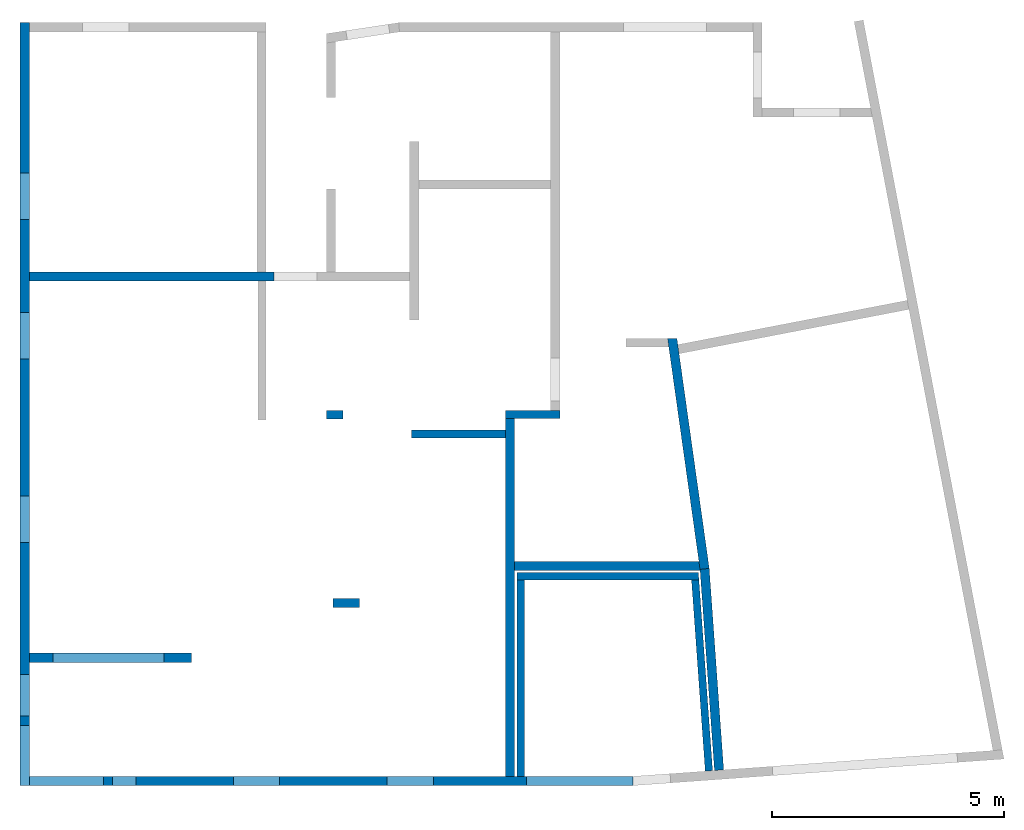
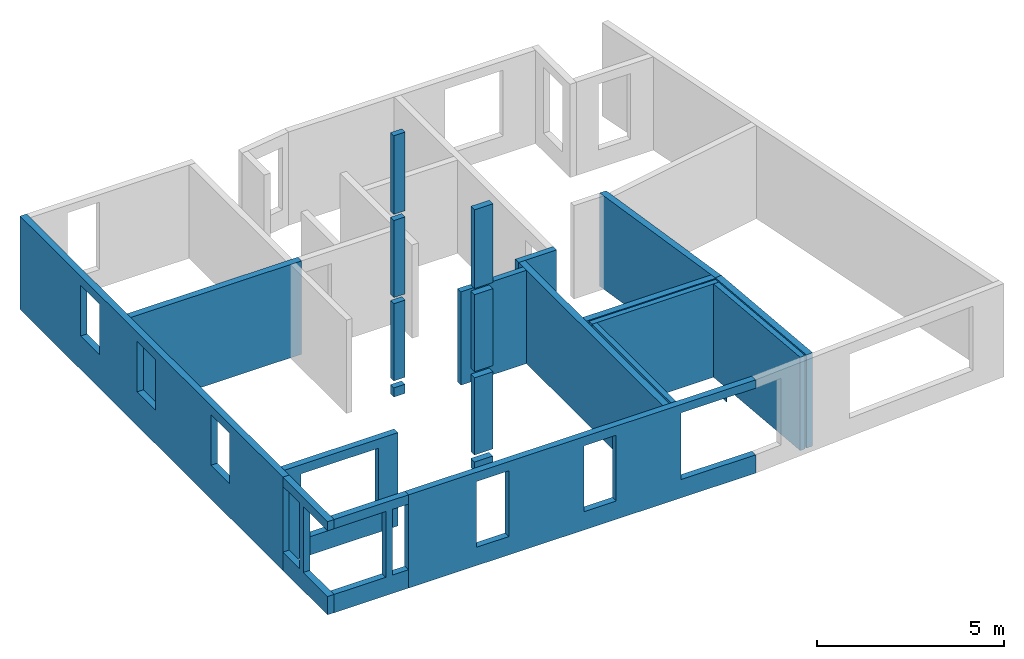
# One storey, part 1 of 2: 15 walls, 2 columns, 18 openings.
"""IFC2X3 building model written with IfcOpenShell, lengths in centimetres."""

from ifc_helpers import new_model, entity, si_unit, converted_unit, derived_unit, direction, frame, frame_2d, origin, origin_2d_with_axis, place, context, subcontext, project, spatial, polyline, rectangle, outline, extrude, clip, bounded_halfspace, source, transform, mapped, material, layer, layer_set, layer_usage, type_object, type_shapes, element, save


model = new_model("IFC2X3")

# Units and contexts
model_context = context("Model", 3, precision=0.001, world=origin(), true_north=direction((6.12303176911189e-17, 1.0)))
body_context = subcontext(model_context, "Body", "Model", "MODEL_VIEW")
ifc_project = project(units=[si_unit("LENGTHUNIT", "METRE", prefix="CENTI"), si_unit("AREAUNIT", "SQUARE_METRE"), si_unit("VOLUMEUNIT", "CUBIC_METRE"), converted_unit("PLANEANGLEUNIT", "DEGREE", entity("IfcRatioMeasure", 0.0174532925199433), si_unit("PLANEANGLEUNIT", "RADIAN"), dimensions=[0, 0, 0, 0, 0, 0, 0]), si_unit("MASSUNIT", "GRAM", prefix="KILO"), si_unit("TIMEUNIT", "SECOND"), si_unit("FREQUENCYUNIT", "HERTZ"), si_unit("THERMODYNAMICTEMPERATUREUNIT", "DEGREE_CELSIUS"), derived_unit("THERMALTRANSMITTANCEUNIT", [(si_unit("MASSUNIT", "GRAM", prefix="KILO"), 1), (si_unit("THERMODYNAMICTEMPERATUREUNIT", "KELVIN"), -1), (si_unit("TIMEUNIT", "SECOND"), -3)]), derived_unit("VOLUMETRICFLOWRATEUNIT", [(si_unit("LENGTHUNIT", "METRE"), 3), (si_unit("TIMEUNIT", "SECOND"), -1)]), si_unit("ELECTRICCURRENTUNIT", "AMPERE"), si_unit("ELECTRICVOLTAGEUNIT", "VOLT"), si_unit("POWERUNIT", "WATT"), si_unit("FORCEUNIT", "NEWTON"), si_unit("ILLUMINANCEUNIT", "LUX"), si_unit("LUMINOUSFLUXUNIT", "LUMEN"), si_unit("LUMINOUSINTENSITYUNIT", "CANDELA"), derived_unit("USERDEFINED", [(si_unit("MASSUNIT", "GRAM", prefix="KILO"), -1), (si_unit("LENGTHUNIT", "METRE"), -2), (si_unit("TIMEUNIT", "SECOND"), 3), (si_unit("LUMINOUSFLUXUNIT", "LUMEN"), 1)]), derived_unit("LINEARVELOCITYUNIT", [(si_unit("LENGTHUNIT", "METRE"), 1), (si_unit("TIMEUNIT", "SECOND"), -1)]), si_unit("PRESSUREUNIT", "PASCAL"), derived_unit("USERDEFINED", [(si_unit("LENGTHUNIT", "METRE"), -2), (si_unit("MASSUNIT", "GRAM", prefix="KILO"), 1), (si_unit("TIMEUNIT", "SECOND"), -2)])], contexts=[model_context])

# Site, building, storey
site_placement = place(None, origin())
site = spatial("IfcSite", under=ifc_project, at=site_placement, Name="Default", CompositionType="ELEMENT")
building_placement = place(site_placement, origin())
building = spatial("IfcBuilding", under=site, at=building_placement, CompositionType="ELEMENT")
storey_placement = place(building_placement, frame((0.0, 0.0, -60.0)))
storey = spatial("IfcBuildingStorey", under=building, at=storey_placement, Name="Fondations", CompositionType="ELEMENT", Elevation=-60.0)

# Columns
ifc_material_1 = material(Name="Béton_C25/30")
column_type_1 = type_object("IfcColumnType", Name="POTEAU_20x57_C25/30", PredefinedType="COLUMN", material=ifc_material_1)
shared_shape_1 = source(origin(), body_context, "Body", "SweptSolid", [
    extrude(rectangle(XDim=19.9999999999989, YDim=57.0, at=frame_2d((-3.46567219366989e-12, 0.0), x_axis=(1.0, 0.0))), frame((1580.95930180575, 23601.6882457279, -60.0), z_axis=(0.0, 0.0, 1.0), x_axis=(0.0, -1.0, 0.0)), (0.0, 0.0, 1.0), 30.0),
    extrude(rectangle(XDim=19.9999999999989, YDim=57.0, at=frame_2d((-3.46567219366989e-12, 0.0), x_axis=(1.0, 0.0))), frame((1580.95930180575, 23601.6882457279, 537.0), z_axis=(0.0, 0.0, 1.0), x_axis=(0.0, -1.0, 0.0)), (0.0, 0.0, 1.0), 257.0),
    extrude(rectangle(XDim=19.9999999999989, YDim=57.0, at=frame_2d((-3.46567219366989e-12, 0.0), x_axis=(1.0, 0.0))), frame((1580.95930180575, 23601.6882457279, -7.0), z_axis=(0.0, 0.0, 1.0), x_axis=(0.0, -1.0, 0.0)), (0.0, 0.0, 1.0), 251.999999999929),
    extrude(rectangle(XDim=19.9999999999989, YDim=57.0, at=frame_2d((-3.46567219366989e-12, 0.0), x_axis=(1.0, 0.0))), frame((1580.95930180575, 23601.6882457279, 265.0), z_axis=(0.0, 0.0, 1.0), x_axis=(0.0, -1.0, 0.0)), (0.0, 0.0, 1.0), 252.000000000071),
])
type_shapes(column_type_1, [shared_shape_1])
column_1_placement = place(storey_placement, frame((0.0, 0.0, 60.0)))
element("IfcColumn", 1, at=column_1_placement, inside=storey, type_object=column_type_1, material=ifc_material_1, Name="MR_POTEAU RECTANGULAIRE:POTEAU_20x57_C25/30", ObjectType="POTEAU_20x57_C25/30", context=body_context, shape_type="MappedRepresentation", body=[
    mapped(shared_shape_1, transform((0.0, 0.0, 0.0), scale=1.0)),
])
column_type_2 = type_object("IfcColumnType", Name="POTEAU_18x35_C25/30", PredefinedType="COLUMN", material=ifc_material_1)
shared_shape_2 = source(origin(), body_context, "Body", "SweptSolid", [
    extrude(rectangle(XDim=17.9999999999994, YDim=35.0000000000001, at=origin_2d_with_axis()), frame((1555.8961455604, 24008.1933501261, -60.0), z_axis=(0.0, 0.0, 1.0), x_axis=(0.0, -1.0, 0.0)), (0.0, 0.0, 1.0), 30.0),
    extrude(rectangle(XDim=17.9999999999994, YDim=35.0000000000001, at=origin_2d_with_axis()), frame((1555.8961455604, 24008.1933501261, 537.0), z_axis=(0.0, 0.0, 1.0), x_axis=(0.0, -1.0, 0.0)), (0.0, 0.0, 1.0), 257.0),
    extrude(rectangle(XDim=17.9999999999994, YDim=35.0000000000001, at=origin_2d_with_axis()), frame((1555.8961455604, 24008.1933501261, -7.0), z_axis=(0.0, 0.0, 1.0), x_axis=(0.0, -1.0, 0.0)), (0.0, 0.0, 1.0), 251.999999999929),
    extrude(rectangle(XDim=17.9999999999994, YDim=35.0000000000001, at=origin_2d_with_axis()), frame((1555.8961455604, 24008.1933501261, 265.0), z_axis=(0.0, 0.0, 1.0), x_axis=(0.0, -1.0, 0.0)), (0.0, 0.0, 1.0), 252.000000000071),
])
type_shapes(column_type_2, [shared_shape_2])
column_2_placement = place(storey_placement, frame((0.0, 0.0, 60.0)))
element("IfcColumn", 2, at=column_2_placement, inside=storey, type_object=column_type_2, material=ifc_material_1, Name="MR_POTEAU RECTANGULAIRE:POTEAU_18x35_C25/30", ObjectType="POTEAU_18x35_C25/30", context=body_context, shape_type="MappedRepresentation", body=[
    mapped(shared_shape_2, transform((0.0, 0.0, 0.0), scale=1.0)),
])

# Wall, openings
ifc_material_2 = material(Name="Maçonnerie - Béton")
ifc_layer_1 = layer(ifc_material_2, 20.0)
ifc_layer_set_1 = layer_set([ifc_layer_1], Name="Mur de base:BBM_20")
ifc_layer_usage_1 = layer_usage(ifc_layer_set_1, "AXIS2", "NEGATIVE", 10.0)
wall_type_1 = type_object("IfcWallType", Name="Mur de base:BBM_20", PredefinedType="STANDARD", material=ifc_layer_set_1)
wall_1_placement = place(storey_placement, frame((886.385889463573, 23447.301413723, 0.0), z_axis=(0.0, 0.0, 1.0), x_axis=(0.0, 1.0, 0.0)))
wall_1 = element("IfcWallStandardCase", 3, at=wall_1_placement, inside=storey, type_object=wall_type_1, material=ifc_layer_usage_1, Name="Mur de base:BBM_20", ObjectType="Mur de base:BBM_20", context=body_context, shape_type="Clipping", body=[
    clip(clip(clip(extrude(rectangle(XDim=1407.1129661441, YDim=20.0, at=frame_2d((703.556483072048, 0.0), x_axis=(-1.0, 0.0))), origin(), (0.0, 0.0, 1.0), 304.999999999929), bounded_halfspace(frame((25.7583863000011, -10.0, 305.0), z_axis=(0.0, 0.0, -1.0), x_axis=(1.0, 0.0, 0.0)), True, frame((25.7583863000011, -10.0, 305.0)), polyline([(0.0, 0.0), (20.0, 0.0), (823.246288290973, 0.0), (843.246288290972, 0.0), (1056.2416137, 0.0), (1056.2416137, 20.0), (0.0, 20.0), (0.0, 0.0)]))), bounded_halfspace(frame((1082.0, -10.0, 305.0), z_axis=(0.0, 0.0, -1.0), x_axis=(0.0, 1.0, 0.0)), True, frame((1082.0, -10.0, 305.0)), polyline([(0.0, 0.0), (305.112966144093, 0.0), (325.112966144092, 0.0), (325.112966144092, 20.0), (0.0, 20.0), (0.0, 0.0)]))), bounded_halfspace(frame((0.0, -10.0, 305.0), z_axis=(0.0, 0.0, -1.0), x_axis=(1.0, 0.0, 0.0)), True, frame((0.0, -10.0, 305.0)), polyline([(0.0, 0.0), (25.7583863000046, 0.0), (25.7583863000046, 20.0), (0.0, 20.0), (0.0, 0.0)]))),
])
opening_1_placement = place(wall_1_placement, frame((-23447.301413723, 886.385889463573, 60.0), z_axis=(0.0, 0.0, 1.0), x_axis=(0.0, -1.0, 0.0)))
element("IfcOpeningElement", 4, at=opening_1_placement, cuts=wall_1, Name="Mur de base:BBM_20", ObjectType="Opening", context=body_context, shape_type="SweptSolid", body=[
    extrude(rectangle(XDim=165.0, YDim=100.000000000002, at=frame_2d((0.0, -1.73372427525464e-12), x_axis=(1.0, 0.0))), frame((1028.78588946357, 24479.4143798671, 132.5), z_axis=(-1.0, 0.0, 0.0), x_axis=(0.0, 0.0, -1.0)), (0.0, 0.0, 1.0), 304.8),
])
opening_2_placement = place(wall_1_placement, frame((-23447.301413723, 886.385889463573, 60.0), z_axis=(0.0, 0.0, 1.0), x_axis=(0.0, -1.0, 0.0)))
element("IfcOpeningElement", 5, at=opening_2_placement, cuts=wall_1, Name="Mur de base:BBM_20", ObjectType="Opening", context=body_context, shape_type="SweptSolid", body=[
    extrude(rectangle(XDim=165.0, YDim=100.000000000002, at=frame_2d((0.0, -1.73372427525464e-12), x_axis=(1.0, 0.0))), frame((1028.78588946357, 24178.4143798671, 132.5), z_axis=(-1.0, 0.0, 0.0), x_axis=(0.0, 0.0, -1.0)), (0.0, 0.0, 1.0), 304.8),
])
opening_3_placement = place(wall_1_placement, frame((-23447.301413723, 886.385889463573, 60.0), z_axis=(0.0, 0.0, 1.0), x_axis=(0.0, -1.0, 0.0)))
element("IfcOpeningElement", 6, at=opening_3_placement, cuts=wall_1, Name="Mur de base:BBM_20", ObjectType="Opening", context=body_context, shape_type="SweptSolid", body=[
    extrude(rectangle(XDim=165.0, YDim=100.000000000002, at=frame_2d((0.0, 1.73372427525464e-12), x_axis=(1.0, 0.0))), frame((1028.78588946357, 23782.4143798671, 132.5), z_axis=(-1.0, 0.0, 0.0), x_axis=(0.0, 0.0, -1.0)), (0.0, 0.0, 1.0), 304.8),
])

# Wall, opening
ifc_layer_usage_2 = layer_usage(ifc_layer_set_1, "AXIS2", "NEGATIVE", 10.0)
wall_2_placement = place(storey_placement, frame((896.385889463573, 23483.059800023, 0.0)))
wall_2 = element("IfcWallStandardCase", 7, at=wall_2_placement, inside=storey, type_object=wall_type_1, material=ifc_layer_usage_2, Name="Mur de base:BBM_20", ObjectType="Mur de base:BBM_20", context=body_context, shape_type="Clipping", body=[
    clip(extrude(rectangle(XDim=350.405535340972, YDim=20.0000000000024, at=frame_2d((175.202767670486, 0.0), x_axis=(-1.0, 0.0))), origin(), (0.0, 0.0, 1.0), 304.999999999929), bounded_halfspace(frame((350.405535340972, 10.0, 305.0), z_axis=(0.0, 0.0, -1.0), x_axis=(0.0, 1.0, 0.0)), True, frame((350.405535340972, 10.0, 305.0)), polyline([(0.0, 0.0), (-350.405535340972, 0.0), (-350.405535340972, -20.0), (-20.0, -20.0), (0.0, -20.0), (0.0, 0.0)]))),
])
opening_4_placement = place(wall_2_placement, frame((-896.385889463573, -23483.059800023, 60.0)))
element("IfcOpeningElement", 8, at=opening_4_placement, cuts=wall_2, Name="Mur de base:BBM_20", ObjectType="Opening", context=body_context, shape_type="SweptSolid", body=[
    extrude(rectangle(XDim=215.0, YDim=240.0, at=frame_2d((0.0, 0.0), x_axis=(0.0, 1.0))), frame((1067.38588946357, 23320.659800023, 107.5), z_axis=(0.0, 1.0, 0.0), x_axis=(1.0, 0.0, 0.0)), (0.0, 0.0, 1.0), 304.8),
])

# Wall, openings
ifc_layer_usage_3 = layer_usage(ifc_layer_set_1, "AXIS2", "NEGATIVE", 10.0)
wall_3_placement = place(storey_placement, frame((2200.13155874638, 23217.301413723, 0.0), z_axis=(0.0, 0.0, 1.0), x_axis=(-1.0, 0.0, 0.0)))
wall_3 = element("IfcWallStandardCase", 9, at=wall_3_placement, inside=storey, type_object=wall_type_1, material=ifc_layer_usage_3, Name="Mur de base:BBM_20", ObjectType="Mur de base:BBM_20", context=body_context, shape_type="Clipping", body=[
    clip(clip(extrude(outline(polyline([(1073.74566928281, -10.0), (1073.74566928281, 10.0), (0.0, 10.0), (0.715800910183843, -10.0), (234.474035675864, -10.0), (250.474035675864, -10.0), (255.98403645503, -10.0), (275.98403645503, -10.0), (1073.74566928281, -10.0)])), origin(), (0.0, 0.0, 1.0), 304.999999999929), bounded_halfspace(frame((0.715800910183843, -10.0, 305.0), z_axis=(0.0, 0.0, -1.0), x_axis=(0.0, -1.0, 0.0)), True, frame((0.715800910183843, -10.0, 305.0)), polyline([(0.0, 0.0), (233.75823476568, 0.0), (249.75823476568, 0.0), (255.268235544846, 0.0), (275.268235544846, 0.0), (952.624333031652, 0.0), (972.624333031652, 0.0), (972.624333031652, 20.0), (-0.715800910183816, 20.0), (0.0, 0.0)]))), bounded_halfspace(frame((1073.74566928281, -10.0, 305.0), z_axis=(0.0, 0.0, -1.0), x_axis=(0.0, -1.0, 0.0)), True, frame((1073.74566928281, -10.0, 305.0)), polyline([(0.0, 0.0), (0.0, 20.0), (-100.405535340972, 20.0), (-100.405535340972, 0.0), (0.0, 0.0)]))),
])
opening_5_placement = place(wall_3_placement, origin())
element("IfcOpeningElement", 10, at=opening_5_placement, cuts=wall_3, Name="Mur de base:BBM_20", ObjectType="Opening", context=body_context, shape_type="SweptSolid", body=[
    extrude(rectangle(XDim=215.0, YDim=49.9999999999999, at=frame_2d((0.0, 0.0), x_axis=(0.0, 1.0))), frame((1098.74566928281, -162.400000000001, 167.5), z_axis=(0.0, 1.0, 0.0), x_axis=(1.0, 0.0, 0.0)), (0.0, 0.0, 1.0), 304.8),
])
opening_6_placement = place(wall_3_placement, origin())
element("IfcOpeningElement", 11, at=opening_6_placement, cuts=wall_3, Name="Mur de base:BBM_20", ObjectType="Opening", context=body_context, shape_type="SweptSolid", body=[
    extrude(rectangle(XDim=218.0, YDim=80.0, at=frame_2d((-4.29878355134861e-13, 0.0), x_axis=(0.0, 1.0))), frame((-39.8544290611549, -12.907745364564, 169.0), z_axis=(-0.0714885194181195, 0.99744142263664, 0.0), x_axis=(0.99744142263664, 0.0714885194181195, 0.0)), (0.0, 0.0, 1.0), 19.9999999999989),
])
opening_7_placement = place(wall_3_placement, frame((2200.13155874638, 23217.301413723, 60.0), z_axis=(0.0, 0.0, 1.0), x_axis=(-1.0, 0.0, 0.0)))
element("IfcOpeningElement", 12, at=opening_7_placement, cuts=wall_3, Name="Mur de base:BBM_20", ObjectType="Opening", context=body_context, shape_type="SweptSolid", body=[
    extrude(rectangle(XDim=218.0, YDim=140.0, at=frame_2d((2.20268248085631e-13, 0.0), x_axis=(0.0, 1.0))), frame((2039.65752307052, 23379.701413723, 109.0), z_axis=(0.0, -1.0, 0.0), x_axis=(-1.0, 0.0, 0.0)), (0.0, 0.0, 1.0), 304.8),
])
opening_8_placement = place(wall_3_placement, frame((2200.13155874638, 23217.301413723, 60.0), z_axis=(0.0, 0.0, 1.0), x_axis=(-1.0, 0.0, 0.0)))
element("IfcOpeningElement", 13, at=opening_8_placement, cuts=wall_3, Name="Mur de base:BBM_20", ObjectType="Opening", context=body_context, shape_type="SweptSolid", body=[
    extrude(rectangle(XDim=218.0, YDim=93.0000000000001, at=frame_2d((2.16715534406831e-13, 0.0), x_axis=(0.0, 1.0))), frame((2158.15752307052, 23379.701413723, 109.0), z_axis=(0.0, -1.0, 0.0), x_axis=(-1.0, 0.0, 0.0)), (0.0, 0.0, 1.0), 304.8),
])
opening_9_placement = place(wall_3_placement, frame((2200.13155874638, 23217.301413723, 60.0), z_axis=(0.0, 0.0, 1.0), x_axis=(-1.0, 0.0, 0.0)))
element("IfcOpeningElement", 14, at=opening_9_placement, cuts=wall_3, Name="Mur de base:BBM_20", ObjectType="Opening", context=body_context, shape_type="SweptSolid", body=[
    extrude(rectangle(XDim=204.0, YDim=93.0000000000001, at=frame_2d((2.16715534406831e-13, 0.0), x_axis=(0.0, 1.0))), frame((2154.15752307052, 23379.701413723, 102.0), z_axis=(0.0, -1.0, 0.0), x_axis=(-1.0, 0.0, 0.0)), (0.0, 0.0, 1.0), 304.8),
])
opening_10_placement = place(wall_3_placement, frame((2200.13155874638, 23217.301413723, 60.0), z_axis=(0.0, 0.0, 1.0), x_axis=(-1.0, 0.0, 0.0)))
element("IfcOpeningElement", 15, at=opening_10_placement, cuts=wall_3, Name="Mur de base:BBM_20", ObjectType="Opening", context=body_context, shape_type="SweptSolid", body=[
    extrude(rectangle(XDim=215.0, YDim=100.0, at=frame_2d((-1.10134124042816e-13, 0.0), x_axis=(0.0, 1.0))), frame((1386.79142480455, 23379.701413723, 107.5), z_axis=(0.0, -1.0, 0.0), x_axis=(-1.0, 0.0, 0.0)), (0.0, 0.0, 1.0), 304.8),
])
opening_11_placement = place(wall_3_placement, frame((2200.13155874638, 23217.301413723, 60.0), z_axis=(0.0, 0.0, 1.0), x_axis=(-1.0, 0.0, 0.0)))
element("IfcOpeningElement", 16, at=opening_11_placement, cuts=wall_3, Name="Mur de base:BBM_20", ObjectType="Opening", context=body_context, shape_type="SweptSolid", body=[
    extrude(rectangle(XDim=215.0, YDim=100.0, at=frame_2d((-1.10134124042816e-13, 0.0), x_axis=(0.0, 1.0))), frame((1718.79142480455, 23379.701413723, 107.5), z_axis=(0.0, -1.0, 0.0), x_axis=(-1.0, 0.0, 0.0)), (0.0, 0.0, 1.0), 304.8),
])

# Wall, opening
ifc_layer_2 = layer(ifc_material_1, 20.0)
ifc_layer_set_2 = layer_set([ifc_layer_2], Name="Mur de base:VOILE_20_C25/30")
ifc_layer_usage_4 = layer_usage(ifc_layer_set_2, "AXIS2", "POSITIVE", -10.0)
wall_type_2 = type_object("IfcWallType", Name="Mur de base:VOILE_20_C25/30", PredefinedType="STANDARD", material=ifc_layer_set_2)
wall_4_placement = place(storey_placement, frame((896.385889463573, 24306.306088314, 0.0)))
wall_4 = element("IfcWallStandardCase", 17, at=wall_4_placement, inside=storey, type_object=wall_type_2, material=ifc_layer_usage_4, Name="Mur de base:VOILE_20_C25/30", ObjectType="Mur de base:VOILE_20_C25/30", context=body_context, shape_type="Clipping", body=[
    clip(extrude(rectangle(XDim=528.145806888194, YDim=20.0000000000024, at=frame_2d((264.072903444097, 0.0), x_axis=(-1.0, 0.0))), origin(), (0.0, 0.0, 1.0), 304.999999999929), bounded_halfspace(frame((0.0, -10.0, 305.0), z_axis=(0.0, 0.0, -1.0), x_axis=(0.0, 1.0, 0.0)), True, frame((0.0, -10.0, 305.0)), polyline([(0.0, 0.0), (493.405781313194, 0.0), (511.405781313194, 0.0), (528.145806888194, 0.0), (528.145806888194, 20.0), (511.405750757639, 20.0), (491.405750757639, 20.0), (0.0, 20.0), (0.0, 0.0)]))),
])
opening_12_placement = place(wall_4_placement, origin())
element("IfcOpeningElement", 18, at=opening_12_placement, cuts=wall_4, Name="Mur de base:VOILE_20_C25/30", ObjectType="Opening", context=body_context, shape_type="SweptSolid", body=[
    extrude(rectangle(XDim=204.0, YDim=93.0000000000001, at=frame_2d((0.0, 0.0), x_axis=(0.0, 1.0))), frame((574.645806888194, -162.400000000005, 162.0), z_axis=(0.0, 1.0, 0.0), x_axis=(1.0, 0.0, 0.0)), (0.0, 0.0, 1.0), 304.8),
])

# Walls
ifc_layer_usage_5 = layer_usage(ifc_layer_set_2, "AXIS2", "NEGATIVE", 10.0)
wall_5_placement = place(storey_placement, frame((2284.39887464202, 24173.6975718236, 0.0), z_axis=(0.0, 0.0, 1.0), x_axis=(0.139173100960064, -0.99026806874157, 0.0)))
element("IfcWallStandardCase", 19, at=wall_5_placement, inside=storey, type_object=wall_type_2, material=ifc_layer_usage_5, Name="Mur de base:VOILE_20_C25/30", ObjectType="Mur de base:VOILE_20_C25/30", context=body_context, shape_type="Clipping", body=[
    clip(extrude(outline(polyline([(503.146166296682, -10.0), (503.827197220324, 10.0), (35.9035260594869, 10.0), (15.8774372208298, 10.0), (2.81081669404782, 10.0), (0.0, -10.0), (18.1768963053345, -10.0), (485.591480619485, -10.0), (503.146166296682, -10.0)])), origin(), (0.0, 0.0, 1.0), 304.999999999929), bounded_halfspace(frame((0.0, -10.0, 305.0), z_axis=(0.0, 0.0, -1.0), x_axis=(-0.99026806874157, 0.139173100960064, 0.0)), True, frame((0.0, -10.0, 305.0)), polyline([(0.0, 0.0), (18.1768963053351, 0.0), (485.591480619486, 0.0), (503.146166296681, 0.0), (503.827197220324, 20.0), (35.9035260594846, 20.0), (15.8774372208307, 20.0), (2.81081669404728, 20.0), (0.0, 0.0)]))),
])
ifc_layer_usage_6 = layer_usage(ifc_layer_set_2, "AXIS2", "NEGATIVE", 10.0)
wall_6_placement = place(storey_placement, frame((1934.14752229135, 23999.3056315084, 0.0), z_axis=(0.0, 0.0, 1.0), x_axis=(0.0, -1.0, 0.0)))
element("IfcWallStandardCase", 20, at=wall_6_placement, inside=storey, type_object=wall_type_2, material=ifc_layer_usage_6, Name="Mur de base:VOILE_20_C25/30", ObjectType="Mur de base:VOILE_20_C25/30", context=body_context, shape_type="Clipping", body=[
    clip(extrude(rectangle(XDim=772.004217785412, YDim=20.0000000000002, at=frame_2d((386.002108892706, 0.0), x_axis=(-1.0, 0.0))), origin(), (0.0, 0.0, 1.0), 304.999999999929), bounded_halfspace(frame((0.0, -10.0, 305.0), z_axis=(0.0, 0.0, -1.0), x_axis=(-1.0, 0.0, 0.0)), True, frame((0.0, -10.0, 305.0)), polyline([(0.0, 0.0), (24.0000641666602, 0.0), (42.0000641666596, 0.0), (772.004217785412, 0.0), (772.004217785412, 20.0), (327.865528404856, 20.0), (307.865528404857, 20.0), (0.0, 20.0), (0.0, 0.0)]))),
])
ifc_layer_usage_7 = layer_usage(ifc_layer_set_2, "AXIS2", "NEGATIVE", 10.0)
wall_7_placement = place(storey_placement, frame((1944.14752229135, 23681.4401031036, 0.0)))
element("IfcWallStandardCase", 21, at=wall_7_placement, inside=storey, type_object=wall_type_2, material=ifc_layer_usage_7, Name="Mur de base:VOILE_20_C25/30", ObjectType="Mur de base:VOILE_20_C25/30", context=body_context, shape_type="Clipping", body=[
    clip(extrude(outline(polyline([(400.560588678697, -10.0), (400.373083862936, -7.38384468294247), (397.929943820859, 10.0), (0.0, 10.0), (0.0, -10.0), (400.560588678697, -10.0)])), origin(), (0.0, 0.0, 1.0), 304.999999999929), bounded_halfspace(frame((0.0, -10.0, 305.0), z_axis=(0.0, 0.0, -1.0), x_axis=(0.0, 1.0, 0.0)), True, frame((0.0, -10.0, 305.0)), polyline([(0.0, 0.0), (400.560588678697, 0.0), (400.373083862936, 2.61615531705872), (397.929943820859, 20.0), (0.0, 20.0), (0.0, 0.0)]))),
])
ifc_layer_usage_8 = layer_usage(ifc_layer_set_2, "AXIS2", "NEGATIVE", 10.0)
wall_8_placement = place(storey_placement, frame((2354.44633448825, 23675.4504320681, 0.0), z_axis=(0.0, 0.0, 1.0), x_axis=(0.0714885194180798, -0.997441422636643, 0.0)))
element("IfcWallStandardCase", 22, at=wall_8_placement, inside=storey, type_object=wall_type_2, material=ifc_layer_usage_8, Name="Mur de base:VOILE_20_C25/30", ObjectType="Mur de base:VOILE_20_C25/30", context=body_context, shape_type="Clipping", body=[
    clip(extrude(outline(polyline([(435.919488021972, -10.0), (435.919488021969, 10.0), (0.0, 10.0), (0.681030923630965, -10.0), (3.30389704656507, -10.0), (435.919488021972, -10.0)])), origin(), (0.0, 0.0, 1.0), 304.999999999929), bounded_halfspace(frame((0.681030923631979, -10.0, 305.0), z_axis=(0.0, 0.0, -1.0), x_axis=(-0.997441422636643, 0.0714885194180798, 0.0)), True, frame((0.681030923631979, -10.0, 305.0)), polyline([(0.0, 0.0), (2.62286612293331, 0.0), (435.23845709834, 0.0), (435.23845709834, 20.0), (214.717413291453, 20.0), (209.678750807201, 20.0), (184.503281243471, 20.0), (-0.681030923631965, 20.0), (0.0, 0.0)]))),
])

# Wall, openings
ifc_layer_usage_9 = layer_usage(ifc_layer_set_2, "AXIS2", "NEGATIVE", 10.0)
wall_9_placement = place(storey_placement, frame((886.385889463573, 23447.301413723, 0.0), z_axis=(0.0, 0.0, 1.0), x_axis=(0.0, -1.0, 0.0)))
wall_9 = element("IfcWallStandardCase", 23, at=wall_9_placement, inside=storey, type_object=wall_type_2, material=ifc_layer_usage_9, Name="Mur de base:VOILE_20_C25/30", ObjectType="Mur de base:VOILE_20_C25/30", context=body_context, shape_type="Clipping", body=[
    clip(extrude(rectangle(XDim=239.999999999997, YDim=20.0, at=frame_2d((119.999999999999, 1.24344978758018e-14), x_axis=(-1.0, 0.0))), origin(), (0.0, 0.0, 1.0), 304.999999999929), bounded_halfspace(frame((0.0, -10.0, 305.0), z_axis=(0.0, 0.0, -1.0), x_axis=(-1.0, 0.0, 0.0)), True, frame((0.0, -10.0, 305.0)), polyline([(0.0, 0.0), (240.0, 0.0), (240.0, 20.0), (220.0, 20.0), (0.0, 20.0), (0.0, 0.0)]))),
])
opening_13_placement = place(wall_9_placement, origin())
element("IfcOpeningElement", 24, at=opening_13_placement, cuts=wall_9, Name="Mur de base:VOILE_20_C25/30", ObjectType="Opening", context=body_context, shape_type="SweptSolid", body=[
    extrude(rectangle(XDim=215.0, YDim=19.9999999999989, at=frame_2d((-1.73283609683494e-12, 0.0), x_axis=(0.0, 1.0))), frame((230.0, -10.0, 167.5), z_axis=(0.0, 1.0, 0.0), x_axis=(1.0, 0.0, 0.0)), (0.0, 0.0, 1.0), 180.0),
])
opening_14_placement = place(wall_9_placement, frame((23447.301413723, -886.385889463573, 60.0), z_axis=(0.0, 0.0, 1.0), x_axis=(0.0, 1.0, 0.0)))
element("IfcOpeningElement", 25, at=opening_14_placement, cuts=wall_9, Name="Mur de base:VOILE_20_C25/30", ObjectType="Opening", context=body_context, shape_type="SweptSolid", body=[
    extrude(rectangle(XDim=215.0, YDim=129.999999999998, at=frame_2d((-1.73372427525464e-12, 0.0), x_axis=(0.0, 1.0))), frame((723.985889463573, 23272.301413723, 107.5), z_axis=(1.0, 0.0, 0.0), x_axis=(0.0, -1.0, 0.0)), (0.0, 0.0, 1.0), 304.8),
])
opening_15_placement = place(wall_9_placement, frame((23447.301413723, -886.385889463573, 60.0), z_axis=(0.0, 0.0, 1.0), x_axis=(0.0, 1.0, 0.0)))
element("IfcOpeningElement", 26, at=opening_15_placement, cuts=wall_9, Name="Mur de base:VOILE_20_C25/30", ObjectType="Opening", context=body_context, shape_type="SweptSolid", body=[
    extrude(rectangle(XDim=215.0, YDim=90.0000000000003, at=frame_2d((0.0, 0.0), x_axis=(0.0, 1.0))), frame((723.985889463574, 23402.301413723, 107.5), z_axis=(1.0, 0.0, 0.0), x_axis=(0.0, -1.0, 0.0)), (0.0, 0.0, 1.0), 304.8),
])

ifc_layer_usage_10 = layer_usage(ifc_layer_set_2, "AXIS2", "NEGATIVE", 10.0)
wall_10_placement = place(storey_placement, frame((896.385889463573, 23217.301413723, 0.0)))
wall_10 = element("IfcWallStandardCase", 27, at=wall_10_placement, inside=storey, type_object=wall_type_2, material=ifc_layer_usage_10, Name="Mur de base:VOILE_20_C25/30", ObjectType="Mur de base:VOILE_20_C25/30", context=body_context, shape_type="Clipping", body=[
    clip(extrude(rectangle(XDim=230.0, YDim=20.0000000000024, at=frame_2d((115.0, 0.0), x_axis=(-1.0, 0.0))), origin(), (0.0, 0.0, 1.0), 304.999999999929), bounded_halfspace(frame((0.0, -10.0, 305.0), z_axis=(0.0, 0.0, -1.0), x_axis=(0.0, 1.0, 0.0)), True, frame((0.0, -10.0, 305.0)), polyline([(0.0, 0.0), (230.0, 0.0), (230.0, 20.0), (0.0, 20.0), (0.0, 0.0)]))),
])
opening_16_placement = place(wall_10_placement, origin())
element("IfcOpeningElement", 28, at=opening_16_placement, cuts=wall_10, Name="Mur de base:VOILE_20_C25/30", ObjectType="Opening", context=body_context, shape_type="SweptSolid", body=[
    extrude(rectangle(XDim=215.0, YDim=20.0, at=frame_2d((0.0, 0.0), x_axis=(0.0, 1.0))), frame((-10.0, -10.0, 167.5), z_axis=(0.0, 1.0, 0.0), x_axis=(1.0, 0.0, 0.0)), (0.0, 0.0, 1.0), 129.999999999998),
])
opening_17_placement = place(wall_10_placement, frame((-896.385889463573, -23217.301413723, 60.0)))
element("IfcOpeningElement", 29, at=opening_17_placement, cuts=wall_10, Name="Mur de base:VOILE_20_C25/30", ObjectType="Opening", context=body_context, shape_type="SweptSolid", body=[
    extrude(rectangle(XDim=215.0, YDim=180.0, at=frame_2d((0.0, 4.9737991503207e-14), x_axis=(1.0, 0.0))), frame((966.385889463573, 23074.901413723, 107.5), z_axis=(0.0, 1.0, 0.0), x_axis=(0.0, 0.0, -1.0)), (0.0, 0.0, 1.0), 304.8),
])
opening_18_placement = place(wall_10_placement, frame((-896.385889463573, -23217.301413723, 60.0)))
element("IfcOpeningElement", 30, at=opening_18_placement, cuts=wall_10, Name="Mur de base:VOILE_20_C25/30", ObjectType="Opening", context=body_context, shape_type="SweptSolid", body=[
    extrude(rectangle(XDim=215.0, YDim=49.9999999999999, at=origin_2d_with_axis()), frame((1101.38588946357, 23074.901413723, 107.5), z_axis=(0.0, 1.0, 0.0), x_axis=(0.0, 0.0, -1.0)), (0.0, 0.0, 1.0), 304.8),
])

# Walls
ifc_layer_3 = layer(ifc_material_1, 18.0)
ifc_layer_set_3 = layer_set([ifc_layer_3], Name="Mur de base:VOILE_18_C25/30")
ifc_layer_usage_11 = layer_usage(ifc_layer_set_3, "AXIS2", "POSITIVE", -9.0)
wall_type_3 = type_object("IfcWallType", Name="Mur de base:VOILE_18_C25/30", PredefinedType="STANDARD", material=ifc_layer_set_3)
wall_11_placement = place(storey_placement, frame((1721.65715029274, 23966.3055673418, 0.0)))
element("IfcWallStandardCase", 31, at=wall_11_placement, inside=storey, type_object=wall_type_3, material=ifc_layer_usage_11, Name="Mur de base:VOILE_18_C25/30", ObjectType="Mur de base:VOILE_18_C25/30", context=body_context, shape_type="Clipping", body=[
    clip(extrude(rectangle(XDim=202.490371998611, YDim=18.0000000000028, at=frame_2d((101.245185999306, 0.0), x_axis=(-1.0, 0.0))), origin(), (0.0, 0.0, 1.0), 304.999999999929), bounded_halfspace(frame((0.0, -9.0, 305.0), z_axis=(0.0, 0.0, -1.0), x_axis=(0.0, 1.0, 0.0)), True, frame((0.0, -9.0, 305.0)), polyline([(0.0, 0.0), (202.490371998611, 0.0), (202.490371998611, 18.0), (0.0, 18.0), (0.0, 0.0)]))),
])
ifc_layer_usage_12 = layer_usage(ifc_layer_set_3, "AXIS2", "NEGATIVE", 9.0)
wall_12_placement = place(storey_placement, frame((2041.79260883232, 24008.3056315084, 0.0), z_axis=(0.0, 0.0, 1.0), x_axis=(-1.0, 0.0, 0.0)))
element("IfcWallStandardCase", 32, at=wall_12_placement, inside=storey, type_object=wall_type_3, material=ifc_layer_usage_12, Name="Mur de base:VOILE_18_C25/30", ObjectType="Mur de base:VOILE_18_C25/30", context=body_context, shape_type="Clipping", body=[
    clip(extrude(rectangle(XDim=117.645086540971, YDim=18.0000000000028, at=frame_2d((58.8225432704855, 0.0), x_axis=(-1.0, 0.0))), origin(), (0.0, 0.0, 1.0), 304.999999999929), bounded_halfspace(frame((0.0, -9.0, 305.0), z_axis=(0.0, 0.0, -1.0), x_axis=(0.0, -1.0, 0.0)), True, frame((0.0, -9.0, 305.0)), polyline([(0.0, 0.0), (20.0, 0.0), (117.645086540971, 0.0), (117.645086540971, 18.0), (97.645086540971, 18.0), (0.0, 18.0), (0.0, 0.0)]))),
])
ifc_layer_4 = layer(ifc_material_1, 16.0)
ifc_layer_set_4 = layer_set([ifc_layer_4], Name="Mur de base:VOILE_16_C25/30")
ifc_layer_usage_13 = layer_usage(ifc_layer_set_4, "AXIS2", "NEGATIVE", 8.0)
wall_type_4 = type_object("IfcWallType", Name="Mur de base:VOILE_16_C25/30", PredefinedType="STANDARD", material=ifc_layer_set_4)
wall_13_placement = place(storey_placement, frame((1957.65752307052, 23227.301413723, 0.0), z_axis=(0.0, 0.0, 1.0), x_axis=(0.0, 1.0, 0.0)))
element("IfcWallStandardCase", 33, at=wall_13_placement, inside=storey, type_object=wall_type_4, material=ifc_layer_usage_13, Name="Mur de base:VOILE_16_C25/30", ObjectType="Mur de base:VOILE_16_C25/30", context=body_context, shape_type="Clipping", body=[
    clip(extrude(rectangle(XDim=424.138658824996, YDim=15.9999999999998, at=frame_2d((212.069329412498, 0.0), x_axis=(-1.0, 0.0))), origin(), (0.0, 0.0, 1.0), 304.999999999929), bounded_halfspace(frame((0.0, -8.0, 305.0), z_axis=(0.0, 0.0, -1.0), x_axis=(1.0, 0.0, 0.0)), True, frame((0.0, -8.0, 305.0)), polyline([(0.0, 0.0), (424.138658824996, 0.0), (424.138658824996, 16.0), (0.0, 16.0), (0.0, 0.0)]))),
])
ifc_layer_usage_14 = layer_usage(ifc_layer_set_4, "AXIS2", "POSITIVE", -8.0)
wall_14_placement = place(storey_placement, frame((2342.13416749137, 23659.440072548, 0.0), z_axis=(0.0, 0.0, 1.0), x_axis=(-1.0, 0.0, 0.0)))
element("IfcWallStandardCase", 34, at=wall_14_placement, inside=storey, type_object=wall_type_4, material=ifc_layer_usage_14, Name="Mur de base:VOILE_16_C25/30", ObjectType="Mur de base:VOILE_16_C25/30", context=body_context, shape_type="Clipping", body=[
    clip(extrude(outline(polyline([(392.476644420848, -8.0), (392.476644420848, 8.0), (376.476644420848, 8.0), (16.041042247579, 8.0), (0.0, 8.0), (1.14675036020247, -8.0), (392.476644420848, -8.0)])), origin(), (0.0, 0.0, 1.0), 304.999999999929), bounded_halfspace(frame((1.14675036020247, -8.0, 305.0), z_axis=(0.0, 0.0, -1.0), x_axis=(0.0, -1.0, 0.0)), True, frame((1.14675036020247, -8.0, 305.0)), polyline([(0.0, 0.0), (391.329894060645, 0.0), (391.329894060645, 16.0), (375.329894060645, 16.0), (14.8942918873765, 16.0), (-1.14675036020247, 16.0), (0.0, 0.0)]))),
])
ifc_layer_usage_15 = layer_usage(ifc_layer_set_4, "AXIS2", "NEGATIVE", 8.0)
wall_15_placement = place(storey_placement, frame((2334.07265662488, 23652.0119807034, 0.0), z_axis=(0.0, 0.0, 1.0), x_axis=(0.0714885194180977, -0.997441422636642, 0.0)))
element("IfcWallStandardCase", 35, at=wall_15_placement, inside=storey, type_object=wall_type_4, material=ifc_layer_usage_15, Name="Mur de base:VOILE_16_C25/30", ObjectType="Mur de base:VOILE_16_C25/30", context=body_context, shape_type="Clipping", body=[
    clip(extrude(outline(polyline([(413.997489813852, -8.0), (413.997489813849, 8.0), (1.14675036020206, 8.0), (0.0, -8.0), (413.997489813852, -8.0)])), origin(), (0.0, 0.0, 1.0), 304.999999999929), bounded_halfspace(frame((0.0, -8.0, 305.0), z_axis=(0.0, 0.0, -1.0), x_axis=(-0.997441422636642, 0.0714885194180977, 0.0)), True, frame((0.0, -8.0, 305.0)), polyline([(0.0, 0.0), (413.99748981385, 0.0), (413.997489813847, 16.0), (1.14675036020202, 16.0), (0.0, 0.0)]))),
])

save(model, "model.ifc")
